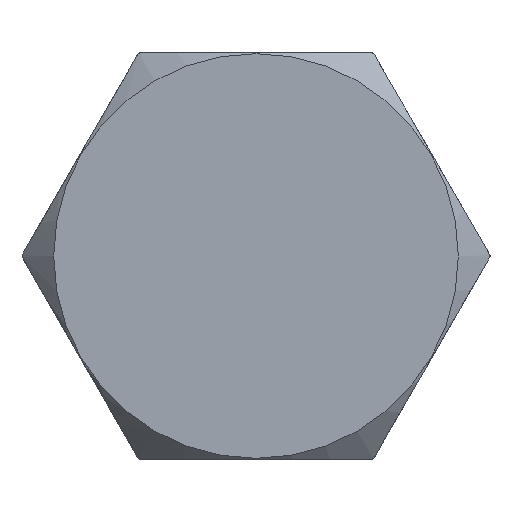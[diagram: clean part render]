
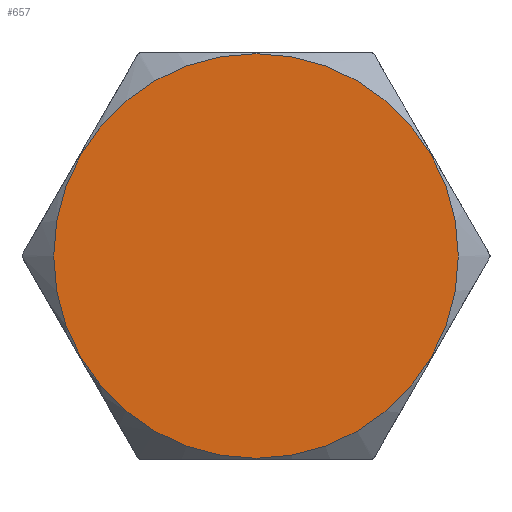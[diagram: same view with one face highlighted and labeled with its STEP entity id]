
A CAD part, front view. The second image highlights one B-rep face of the part: STEP entity #657.
In plain terms, the highlighted planar face has unit normal (0, -1, 0).
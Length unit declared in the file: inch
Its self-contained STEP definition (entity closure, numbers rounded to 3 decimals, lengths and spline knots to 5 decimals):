
#41=PLANE('',#758);
#97=FACE_OUTER_BOUND('',#138,.T.);
#138=EDGE_LOOP('',(#609));
#247=CIRCLE('',#755,0.498);
#312=VERTEX_POINT('',#1250);
#409=EDGE_CURVE('',#312,#312,#247,.T.);
#609=ORIENTED_EDGE('',*,*,#409,.F.);
#657=ADVANCED_FACE('',(#97),#41,.T.);
#755=AXIS2_PLACEMENT_3D('',#1251,#954,#955);
#758=AXIS2_PLACEMENT_3D('',#1255,#961,#962);
#954=DIRECTION('center_axis',(0.,1.,0.));
#955=DIRECTION('ref_axis',(0.,0.,1.));
#961=DIRECTION('center_axis',(0.,-1.,0.));
#962=DIRECTION('ref_axis',(0.,0.,-1.));
#1250=CARTESIAN_POINT('',(0.,0.,-0.498));
#1251=CARTESIAN_POINT('Origin',(0.,0.,0.));
#1255=CARTESIAN_POINT('Origin',(0.,0.,0.));
